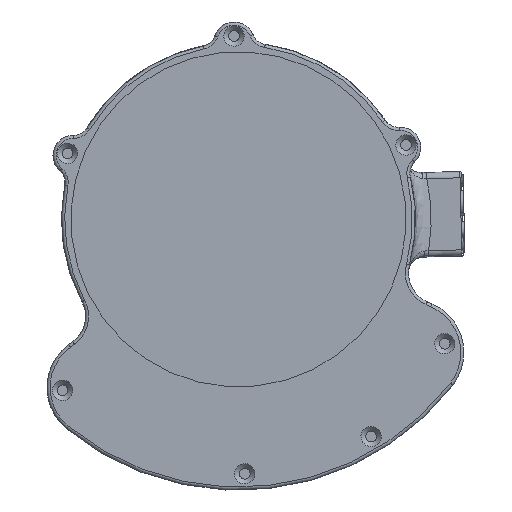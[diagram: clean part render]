
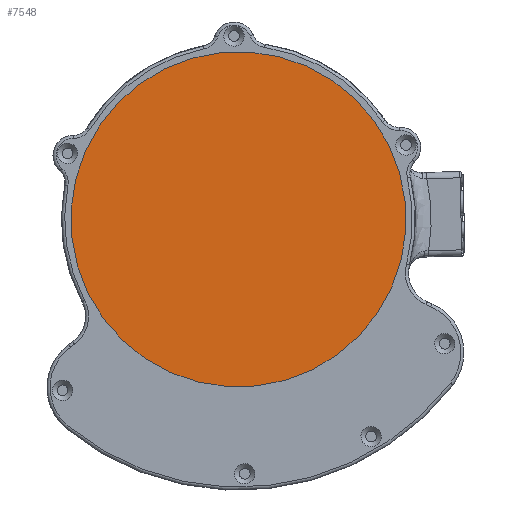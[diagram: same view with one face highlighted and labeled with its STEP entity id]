
A CAD part, left-side view. The second image highlights one B-rep face of the part: STEP entity #7548.
In plain terms, the highlighted planar face has unit normal (-1, 0, 0).
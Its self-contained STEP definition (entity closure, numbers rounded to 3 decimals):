
#7525=CARTESIAN_POINT('',(-27.588,82.909,-5.747));
#7526=VERTEX_POINT('',#7525);
#7527=CARTESIAN_POINT('',(-27.588,29.719,0.));
#7528=DIRECTION('',(-1.0,0.,0.));
#7529=DIRECTION('',(0.,0.994,-0.107));
#7530=AXIS2_PLACEMENT_3D('',#7527,#7528,#7529);
#7531=CIRCLE('',#7530,53.5);
#7532=EDGE_CURVE('',#7526,#7526,#7531,.T.);
#7540=CARTESIAN_POINT('',(-27.588,76.198,-5.022));
#7541=DIRECTION('',(-1.0,0.0,0.0));
#7542=DIRECTION('',(0.0,-0.107,-0.994));
#7543=AXIS2_PLACEMENT_3D('',#7540,#7541,#7542);
#7544=PLANE('',#7543);
#7545=ORIENTED_EDGE('',*,*,#7532,.T.);
#7546=EDGE_LOOP('',(#7545));
#7547=FACE_OUTER_BOUND('',#7546,.T.);
#7548=ADVANCED_FACE('',(#7547),#7544,.T.);
